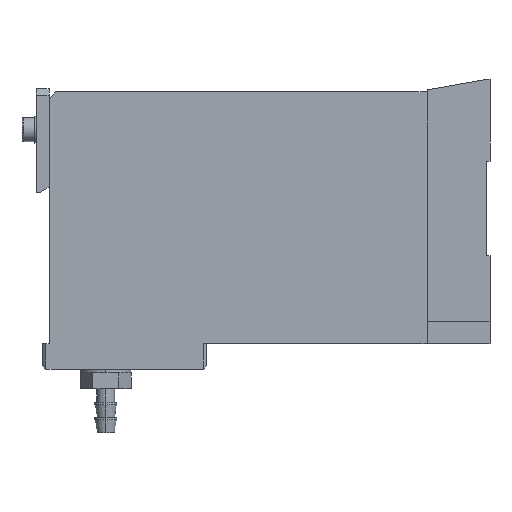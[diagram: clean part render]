
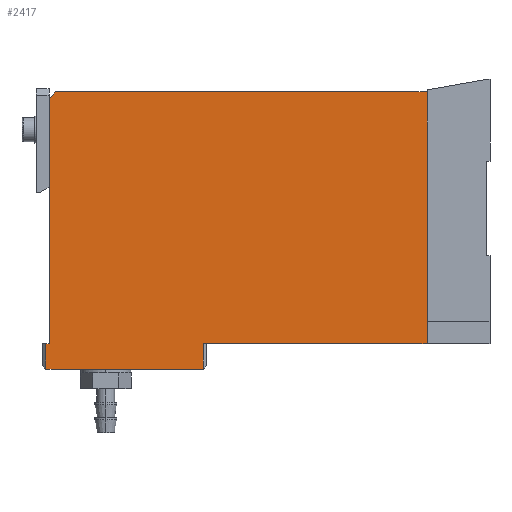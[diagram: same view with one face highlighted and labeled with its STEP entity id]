
A CAD part, left-side view. The second image highlights one B-rep face of the part: STEP entity #2417.
In plain terms, the highlighted planar face has unit normal (-1, 0, 0).
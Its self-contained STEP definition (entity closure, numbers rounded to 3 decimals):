
#151 = ORIENTED_EDGE ( 'NONE', *, *, #8189, .T. ) ;
#238 = CARTESIAN_POINT ( 'NONE',  ( -4., 10., 19. ) ) ;
#426 = LINE ( 'NONE', #6834, #10646 ) ;
#526 = CARTESIAN_POINT ( 'NONE',  ( -4., 61., -25. ) ) ;
#707 = LINE ( 'NONE', #1796, #6078 ) ;
#781 = EDGE_CURVE ( 'NONE', #14328, #11192, #9319, .T. ) ;
#824 = EDGE_CURVE ( 'NONE', #7612, #13977, #10825, .T. ) ;
#916 = EDGE_CURVE ( 'NONE', #10622, #13977, #9520, .T. ) ;
#1495 = FACE_OUTER_BOUND ( 'NONE', #2678, .T. ) ;
#1534 = EDGE_CURVE ( 'NONE', #8676, #7612, #9150, .T. ) ;
#1796 = CARTESIAN_POINT ( 'NONE',  ( -4., 70., -21. ) ) ;
#1870 = CARTESIAN_POINT ( 'NONE',  ( -4., 10., -21. ) ) ;
#2014 = DIRECTION ( 'NONE',  ( 0., -1., 0. ) ) ;
#2092 = ORIENTED_EDGE ( 'NONE', *, *, #781, .F. ) ;
#2185 = DIRECTION ( 'NONE',  ( 0., -1., 0. ) ) ;
#2314 = CARTESIAN_POINT ( 'NONE',  ( -4., 70., -21. ) ) ;
#2417 = ADVANCED_FACE ( 'NONE', ( #1495 ), #7246, .T. ) ;
#2678 = EDGE_LOOP ( 'NONE', ( #5846, #151, #2092, #15400, #10220, #4301, #14321, #13557, #12494, #3137 ) ) ;
#2880 = CARTESIAN_POINT ( 'NONE',  ( -4., 10., 19. ) ) ;
#3137 = ORIENTED_EDGE ( 'NONE', *, *, #1534, .F. ) ;
#3224 = LINE ( 'NONE', #10277, #8965 ) ;
#3495 = LINE ( 'NONE', #8320, #9616 ) ;
#3588 = VECTOR ( 'NONE', #7178, 1000. ) ;
#4301 = ORIENTED_EDGE ( 'NONE', *, *, #8470, .T. ) ;
#4315 = DIRECTION ( 'NONE',  ( 0., 0., -1. ) ) ;
#4333 = CARTESIAN_POINT ( 'NONE',  ( -4., 61., -25. ) ) ;
#4648 = CARTESIAN_POINT ( 'NONE',  ( -4., 70.5, -25. ) ) ;
#4768 = EDGE_CURVE ( 'NONE', #11388, #8676, #426, .T. ) ;
#4898 = EDGE_CURVE ( 'NONE', #5601, #7055, #3224, .T. ) ;
#5011 = DIRECTION ( 'NONE',  ( 0., 0., -1. ) ) ;
#5267 = VECTOR ( 'NONE', #12976, 1000. ) ;
#5487 = VECTOR ( 'NONE', #2185, 1000. ) ;
#5601 = VERTEX_POINT ( 'NONE', #14430 ) ;
#5633 = VECTOR ( 'NONE', #5011, 1000. ) ;
#5838 = DIRECTION ( 'NONE',  ( 0., 0., 1. ) ) ;
#5846 = ORIENTED_EDGE ( 'NONE', *, *, #4768, .F. ) ;
#6078 = VECTOR ( 'NONE', #11471, 1000. ) ;
#6147 = DIRECTION ( 'NONE',  ( 0., -1., 0. ) ) ;
#6524 = DIRECTION ( 'NONE',  ( 0., 0.707, -0.707 ) ) ;
#6672 = CARTESIAN_POINT ( 'NONE',  ( -4., 69., 19. ) ) ;
#6834 = CARTESIAN_POINT ( 'NONE',  ( -4., 69., 19. ) ) ;
#6904 = CARTESIAN_POINT ( 'NONE',  ( -4., 45.5, -25. ) ) ;
#7055 = VERTEX_POINT ( 'NONE', #4648 ) ;
#7178 = DIRECTION ( 'NONE',  ( 0., 0., 1. ) ) ;
#7246 = PLANE ( 'NONE',  #8201 ) ;
#7514 = CARTESIAN_POINT ( 'NONE',  ( -4., 70., -21. ) ) ;
#7612 = VERTEX_POINT ( 'NONE', #1870 ) ;
#8185 = EDGE_CURVE ( 'NONE', #14328, #5601, #707, .T. ) ;
#8189 = EDGE_CURVE ( 'NONE', #11388, #11192, #15475, .T. ) ;
#8201 = AXIS2_PLACEMENT_3D ( 'NONE', #14335, #11913, #6147 ) ;
#8320 = CARTESIAN_POINT ( 'NONE',  ( -4., 70.5, -25. ) ) ;
#8470 = EDGE_CURVE ( 'NONE', #7055, #14568, #3495, .T. ) ;
#8499 = VECTOR ( 'NONE', #6524, 1000. ) ;
#8676 = VERTEX_POINT ( 'NONE', #2880 ) ;
#8965 = VECTOR ( 'NONE', #4315, 1000. ) ;
#9150 = LINE ( 'NONE', #238, #5633 ) ;
#9319 = LINE ( 'NONE', #2314, #11224 ) ;
#9520 = LINE ( 'NONE', #13172, #3588 ) ;
#9616 = VECTOR ( 'NONE', #10616, 1000. ) ;
#10220 = ORIENTED_EDGE ( 'NONE', *, *, #4898, .T. ) ;
#10277 = CARTESIAN_POINT ( 'NONE',  ( -4., 70.5, -21. ) ) ;
#10556 = EDGE_CURVE ( 'NONE', #14568, #10622, #12613, .T. ) ;
#10616 = DIRECTION ( 'NONE',  ( 0., -1., 0. ) ) ;
#10622 = VERTEX_POINT ( 'NONE', #6904 ) ;
#10646 = VECTOR ( 'NONE', #2014, 1000. ) ;
#10825 = LINE ( 'NONE', #14124, #5267 ) ;
#11192 = VERTEX_POINT ( 'NONE', #14017 ) ;
#11224 = VECTOR ( 'NONE', #5838, 1000. ) ;
#11388 = VERTEX_POINT ( 'NONE', #14749 ) ;
#11471 = DIRECTION ( 'NONE',  ( 0., 1., 0. ) ) ;
#11913 = DIRECTION ( 'NONE',  ( -1., 0., 0. ) ) ;
#12494 = ORIENTED_EDGE ( 'NONE', *, *, #824, .F. ) ;
#12544 = CARTESIAN_POINT ( 'NONE',  ( -4., 45.5, -21. ) ) ;
#12613 = LINE ( 'NONE', #526, #5487 ) ;
#12976 = DIRECTION ( 'NONE',  ( 0., 1., 0. ) ) ;
#13172 = CARTESIAN_POINT ( 'NONE',  ( -4., 45.5, -25. ) ) ;
#13557 = ORIENTED_EDGE ( 'NONE', *, *, #916, .T. ) ;
#13977 = VERTEX_POINT ( 'NONE', #12544 ) ;
#14017 = CARTESIAN_POINT ( 'NONE',  ( -4., 70., 18. ) ) ;
#14124 = CARTESIAN_POINT ( 'NONE',  ( -4., 10., -21. ) ) ;
#14321 = ORIENTED_EDGE ( 'NONE', *, *, #10556, .T. ) ;
#14328 = VERTEX_POINT ( 'NONE', #7514 ) ;
#14335 = CARTESIAN_POINT ( 'NONE',  ( -4., 76.55, -29.4 ) ) ;
#14430 = CARTESIAN_POINT ( 'NONE',  ( -4., 70.5, -21. ) ) ;
#14568 = VERTEX_POINT ( 'NONE', #4333 ) ;
#14749 = CARTESIAN_POINT ( 'NONE',  ( -4., 69., 19. ) ) ;
#15400 = ORIENTED_EDGE ( 'NONE', *, *, #8185, .T. ) ;
#15475 = LINE ( 'NONE', #6672, #8499 ) ;
